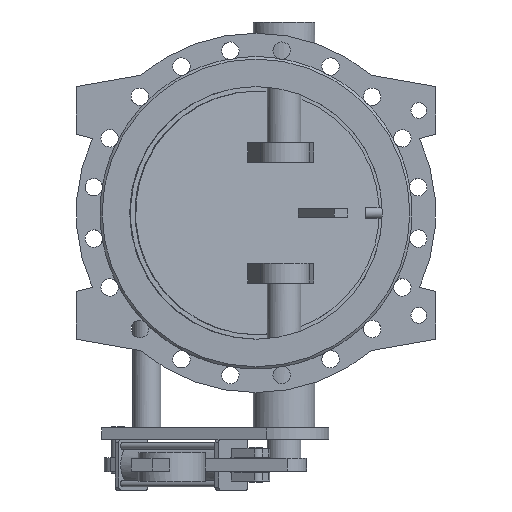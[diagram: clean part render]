
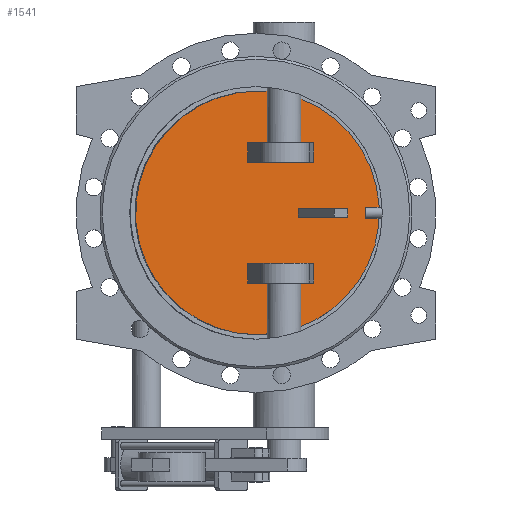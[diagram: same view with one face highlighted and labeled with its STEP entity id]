
A CAD part, front view. The second image highlights one B-rep face of the part: STEP entity #1541.
In plain terms, the highlighted planar face has unit normal (0.131, -0.991, 0).
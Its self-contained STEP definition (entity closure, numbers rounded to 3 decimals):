
#1541=ADVANCED_FACE('',(#3404,#3406,#3408,#3410),#3412,.T.);
#3404=FACE_BOUND('',#3405,.T.);
#3405=EDGE_LOOP('',(#4799));
#3406=FACE_BOUND('',#3407,.T.);
#3407=EDGE_LOOP('',(#4800,#4801,#4802,#4803));
#3408=FACE_BOUND('',#3409,.T.);
#3409=EDGE_LOOP('',(#4804,#4805,#4806,#4807));
#3410=FACE_BOUND('',#3411,.T.);
#3411=EDGE_LOOP('',(#4808,#4809,#4810,#4811));
#3412=PLANE('',#3413);
#3413=AXIS2_PLACEMENT_3D('',#3414,#3415,#3416);
#3414=CARTESIAN_POINT('',(-1.272,9.66,0.));
#3415=DIRECTION('',(0.131,-0.991,0.));
#3416=DIRECTION('',(0.,0.,-1.));
#4799=ORIENTED_EDGE('',*,*,#5427,.T.);
#4800=ORIENTED_EDGE('',*,*,#5451,.F.);
#4801=ORIENTED_EDGE('',*,*,#5452,.F.);
#4802=ORIENTED_EDGE('',*,*,#5453,.F.);
#4803=ORIENTED_EDGE('',*,*,#5454,.F.);
#4804=ORIENTED_EDGE('',*,*,#5455,.F.);
#4805=ORIENTED_EDGE('',*,*,#5456,.F.);
#4806=ORIENTED_EDGE('',*,*,#5457,.F.);
#4807=ORIENTED_EDGE('',*,*,#5458,.F.);
#4808=ORIENTED_EDGE('',*,*,#5459,.F.);
#4809=ORIENTED_EDGE('',*,*,#5460,.F.);
#4810=ORIENTED_EDGE('',*,*,#5461,.F.);
#4811=ORIENTED_EDGE('',*,*,#5462,.F.);
#5427=EDGE_CURVE('',#6345,#6345,#6346,.T.);
#5451=EDGE_CURVE('',#6387,#6388,#6389,.T.);
#5452=EDGE_CURVE('',#6390,#6387,#6391,.F.);
#5453=EDGE_CURVE('',#6392,#6390,#6393,.T.);
#5454=EDGE_CURVE('',#6388,#6392,#6394,.T.);
#5455=EDGE_CURVE('',#6395,#6396,#6397,.F.);
#5456=EDGE_CURVE('',#6398,#6395,#6399,.T.);
#5457=EDGE_CURVE('',#6400,#6398,#6401,.T.);
#5458=EDGE_CURVE('',#6396,#6400,#6402,.T.);
#5459=EDGE_CURVE('',#6403,#6404,#6405,.T.);
#5460=EDGE_CURVE('',#6406,#6403,#6407,.F.);
#5461=EDGE_CURVE('',#6408,#6406,#6409,.F.);
#5462=EDGE_CURVE('',#6404,#6408,#6410,.F.);
#6345=VERTEX_POINT('',#11709);
#6346=B_SPLINE_CURVE_WITH_KNOTS('',3,
(#11710,#11711,#11712,#11713,#11714,#11715,#11716,#11717,#11718,#11719,#11720,#11721,
#11722,#11723,#11724,#11725,#11726,#11727,#11728,#11729,#11730,#11731,#11732,#11733,
#11734,#11735,#11736,#11737,#11738,#11739,#11740,#11741,#11742,#11743,#11744,#11745,
#11746,#11747,#11748,#11749,#11750,#11751,#11752,#11753,#11754,#11755,#11756,#11757,
#11758,#11759,#11760),
.UNSPECIFIED.,.T.,.F.,
(4,1,1,1,1,1,1,1,1,1,1,1,1,1,1,1,1,1,1,1,1,1,1,1,1,1,1,1,1,1,1,1,1,1,1,1,1,1,1,1,
1,1,1,1,1,1,1,1,4),
(0.,0.021,0.042,0.063,0.084,
0.105,0.126,0.147,0.168,0.189,
0.211,0.232,0.253,0.274,0.295,
0.316,0.337,0.358,0.379,0.4,
0.421,0.442,0.463,0.484,0.505,
0.526,0.548,0.569,0.59,0.611,
0.632,0.653,0.674,0.695,0.716,
0.737,0.758,0.779,0.8,0.821,
0.843,0.864,0.885,0.906,0.927,
0.948,0.969,0.986,1.),
.UNSPECIFIED.);
#6387=VERTEX_POINT('',#12281);
#6388=VERTEX_POINT('',#12282);
#6389=LINE('',#12283,#12284);
#6390=VERTEX_POINT('',#12286);
#6391=LINE('',#12287,#12288);
#6392=VERTEX_POINT('',#12290);
#6393=LINE('',#12291,#12292);
#6394=LINE('',#12294,#12295);
#6395=VERTEX_POINT('',#12297);
#6396=VERTEX_POINT('',#12298);
#6397=LINE('',#12299,#12300);
#6398=VERTEX_POINT('',#12302);
#6399=LINE('',#12303,#12304);
#6400=VERTEX_POINT('',#12306);
#6401=LINE('',#12307,#12308);
#6402=LINE('',#12310,#12311);
#6403=VERTEX_POINT('',#12313);
#6404=VERTEX_POINT('',#12314);
#6405=LINE('',#12315,#12316);
#6406=VERTEX_POINT('',#12318);
#6407=LINE('',#12319,#12320);
#6408=VERTEX_POINT('',#12322);
#6409=LINE('',#12323,#12324);
#6410=LINE('',#12326,#12327);
#11709=CARTESIAN_POINT('',(2.611,10.171,217.));
#11710=CARTESIAN_POINT('',(2.611,10.171,217.));
#11711=CARTESIAN_POINT('',(-6.922,8.916,217.));
#11712=CARTESIAN_POINT('',(-26.011,6.403,215.741));
#11713=CARTESIAN_POINT('',(-54.183,2.694,210.097));
#11714=CARTESIAN_POINT('',(-81.405,-0.89,200.775));
#11715=CARTESIAN_POINT('',(-107.176,-4.283,187.934));
#11716=CARTESIAN_POINT('',(-131.024,-7.422,171.808));
#11717=CARTESIAN_POINT('',(-152.536,-10.254,152.674));
#11718=CARTESIAN_POINT('',(-171.335,-12.729,130.87));
#11719=CARTESIAN_POINT('',(-187.091,-14.804,106.775));
#11720=CARTESIAN_POINT('',(-199.529,-16.441,80.811));
#11721=CARTESIAN_POINT('',(-208.43,-17.613,53.432));
#11722=CARTESIAN_POINT('',(-213.638,-18.299,25.117));
#11723=CARTESIAN_POINT('',(-215.062,-18.486,-3.636));
#11724=CARTESIAN_POINT('',(-212.678,-18.172,-32.326));
#11725=CARTESIAN_POINT('',(-206.527,-17.362,-60.448));
#11726=CARTESIAN_POINT('',(-196.717,-16.071,-87.512));
#11727=CARTESIAN_POINT('',(-183.421,-14.32,-113.044));
#11728=CARTESIAN_POINT('',(-166.872,-12.142,-136.597));
#11729=CARTESIAN_POINT('',(-147.358,-9.573,-157.76));
#11730=CARTESIAN_POINT('',(-125.223,-6.659,-176.163));
#11731=CARTESIAN_POINT('',(-100.852,-3.45,-191.486));
#11732=CARTESIAN_POINT('',(-74.672,-0.003,-203.46));
#11733=CARTESIAN_POINT('',(-47.14,3.621,-211.875));
#11734=CARTESIAN_POINT('',(-18.738,7.361,-216.585));
#11735=CARTESIAN_POINT('',(10.038,11.149,-217.508));
#11736=CARTESIAN_POINT('',(38.685,14.92,-214.626));
#11737=CARTESIAN_POINT('',(66.7,18.609,-207.99));
#11738=CARTESIAN_POINT('',(93.595,22.149,-197.716));
#11739=CARTESIAN_POINT('',(118.9,25.481,-183.984));
#11740=CARTESIAN_POINT('',(142.17,28.544,-167.033));
#11741=CARTESIAN_POINT('',(163.,31.287,-147.16));
#11742=CARTESIAN_POINT('',(181.025,33.66,-124.712));
#11743=CARTESIAN_POINT('',(195.93,35.622,-100.08));
#11744=CARTESIAN_POINT('',(207.452,37.139,-73.697));
#11745=CARTESIAN_POINT('',(215.39,38.184,-46.024));
#11746=CARTESIAN_POINT('',(219.605,38.739,-17.545));
#11747=CARTESIAN_POINT('',(220.023,38.794,11.241));
#11748=CARTESIAN_POINT('',(216.637,38.348,39.829));
#11749=CARTESIAN_POINT('',(209.506,37.409,67.719));
#11750=CARTESIAN_POINT('',(198.757,35.994,94.423));
#11751=CARTESIAN_POINT('',(184.576,34.127,119.474));
#11752=CARTESIAN_POINT('',(167.214,31.842,142.434));
#11753=CARTESIAN_POINT('',(146.972,29.177,162.904));
#11754=CARTESIAN_POINT('',(124.212,26.18,180.518));
#11755=CARTESIAN_POINT('',(99.359,22.908,194.959));
#11756=CARTESIAN_POINT('',(72.772,19.408,206.023));
#11757=CARTESIAN_POINT('',(46.552,15.956,213.053));
#11758=CARTESIAN_POINT('',(22.979,12.853,216.391));
#11759=CARTESIAN_POINT('',(8.836,10.991,217.));
#11760=CARTESIAN_POINT('',(2.611,10.171,217.));
#12281=CARTESIAN_POINT('',(149.358,29.491,-7.5));
#12282=CARTESIAN_POINT('',(149.358,29.491,7.5));
#12283=CARTESIAN_POINT('',(149.358,29.491,-7.5));
#12284=VECTOR('',#12285,1.);
#12285=DIRECTION('',(0.,0.,1.));
#12286=CARTESIAN_POINT('',(75.,19.701,-7.5));
#12287=CARTESIAN_POINT('',(149.358,29.491,-7.5));
#12288=VECTOR('',#12289,1.);
#12289=DIRECTION('',(-0.991,-0.131,0.));
#12290=CARTESIAN_POINT('',(75.,19.701,7.5));
#12291=CARTESIAN_POINT('',(75.,19.701,7.5));
#12292=VECTOR('',#12293,1.);
#12293=DIRECTION('',(0.,0.,-1.));
#12294=CARTESIAN_POINT('',(149.358,29.491,7.5));
#12295=VECTOR('',#12296,1.);
#12296=DIRECTION('',(-0.991,-0.131,0.));
#12297=CARTESIAN_POINT('',(-14.418,7.929,-125.));
#12298=CARTESIAN_POINT('',(102.407,23.31,-125.));
#12299=CARTESIAN_POINT('',(102.407,23.31,-125.));
#12300=VECTOR('',#12301,1.);
#12301=DIRECTION('',(-0.991,-0.131,0.));
#12302=CARTESIAN_POINT('',(-14.418,7.929,-90.));
#12303=CARTESIAN_POINT('',(-14.418,7.929,-90.));
#12304=VECTOR('',#12305,1.);
#12305=DIRECTION('',(0.,0.,-1.));
#12306=CARTESIAN_POINT('',(102.407,23.31,-90.));
#12307=CARTESIAN_POINT('',(102.407,23.31,-90.));
#12308=VECTOR('',#12309,1.);
#12309=DIRECTION('',(-0.991,-0.131,0.));
#12310=CARTESIAN_POINT('',(102.407,23.31,-125.));
#12311=VECTOR('',#12312,1.);
#12312=DIRECTION('',(0.,0.,1.));
#12313=CARTESIAN_POINT('',(102.407,23.31,125.));
#12314=CARTESIAN_POINT('',(-14.418,7.929,125.));
#12315=CARTESIAN_POINT('',(102.407,23.31,125.));
#12316=VECTOR('',#12317,1.);
#12317=DIRECTION('',(-0.991,-0.131,0.));
#12318=CARTESIAN_POINT('',(102.407,23.31,90.));
#12319=CARTESIAN_POINT('',(102.407,23.31,125.));
#12320=VECTOR('',#12321,1.);
#12321=DIRECTION('',(0.,0.,-1.));
#12322=CARTESIAN_POINT('',(-14.418,7.929,90.));
#12323=CARTESIAN_POINT('',(102.407,23.31,90.));
#12324=VECTOR('',#12325,1.);
#12325=DIRECTION('',(-0.991,-0.131,0.));
#12326=CARTESIAN_POINT('',(-14.418,7.929,90.));
#12327=VECTOR('',#12328,1.);
#12328=DIRECTION('',(0.,0.,1.));
